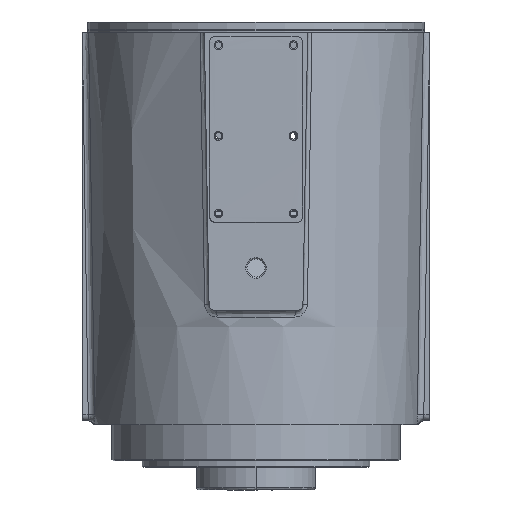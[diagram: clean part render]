
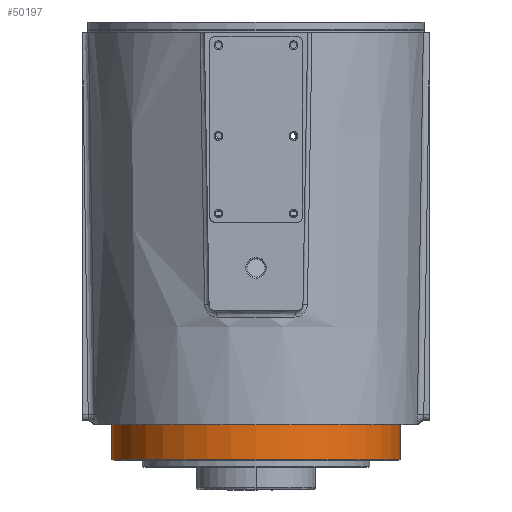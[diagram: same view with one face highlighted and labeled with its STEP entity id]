
A CAD part, front view. The second image highlights one B-rep face of the part: STEP entity #50197.
In plain terms, the highlighted cylindrical face has radius 111.25 mm (diameter 222.5 mm), a partial arc.
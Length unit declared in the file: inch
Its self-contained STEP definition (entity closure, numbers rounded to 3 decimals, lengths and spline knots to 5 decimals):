
#1699 = EDGE_CURVE ( 'NONE', #58257, #52171, #32516, .T. ) ;
#2009 = AXIS2_PLACEMENT_3D ( 'NONE', #48661, #16203, #32827 ) ;
#3770 = LINE ( 'NONE', #46225, #13887 ) ;
#4473 = VECTOR ( 'NONE', #64363, 39.37008 ) ;
#8277 = AXIS2_PLACEMENT_3D ( 'NONE', #62366, #56709, #29879 ) ;
#13887 = VECTOR ( 'NONE', #35984, 39.37008 ) ;
#14033 = CARTESIAN_POINT ( 'NONE',  ( 0., 0., -8.26772 ) ) ;
#16203 = DIRECTION ( 'NONE',  ( 0., 0., 1. ) ) ;
#17011 = EDGE_CURVE ( 'NONE', #28480, #44251, #33104, .T. ) ;
#21936 = LINE ( 'NONE', #53711, #4473 ) ;
#23501 = EDGE_LOOP ( 'NONE', ( #64349, #23802, #65460, #62231 ) ) ;
#23802 = ORIENTED_EDGE ( 'NONE', *, *, #17011, .T. ) ;
#28480 = VERTEX_POINT ( 'NONE', #52569 ) ;
#29879 = DIRECTION ( 'NONE',  ( -1., 0., 0. ) ) ;
#32516 = CIRCLE ( 'NONE', #2009, 4.37992 ) ;
#32827 = DIRECTION ( 'NONE',  ( -1., 0., 0. ) ) ;
#33104 = CIRCLE ( 'NONE', #8277, 4.37992 ) ;
#34106 = EDGE_CURVE ( 'NONE', #28480, #52171, #3770, .T. ) ;
#35253 = CYLINDRICAL_SURFACE ( 'NONE', #52986, 4.37992 ) ;
#35593 = DIRECTION ( 'NONE',  ( -1., 0., 0. ) ) ;
#35984 = DIRECTION ( 'NONE',  ( 0., 0., -1. ) ) ;
#40544 = DIRECTION ( 'NONE',  ( 0., 0., -1. ) ) ;
#44130 = CARTESIAN_POINT ( 'NONE',  ( 4.37992, 0., -8.0315 ) ) ;
#44251 = VERTEX_POINT ( 'NONE', #52334 ) ;
#44449 = EDGE_CURVE ( 'NONE', #44251, #58257, #21936, .T. ) ;
#46225 = CARTESIAN_POINT ( 'NONE',  ( 4.37992, 0., -8.26772 ) ) ;
#48661 = CARTESIAN_POINT ( 'NONE',  ( 0., 0., -8.0315 ) ) ;
#50197 = ADVANCED_FACE ( 'NONE', ( #68093 ), #35253, .T. ) ;
#52171 = VERTEX_POINT ( 'NONE', #44130 ) ;
#52334 = CARTESIAN_POINT ( 'NONE',  ( -4.37992, 0., -6.08004 ) ) ;
#52569 = CARTESIAN_POINT ( 'NONE',  ( 4.37992, 0., -6.08004 ) ) ;
#52986 = AXIS2_PLACEMENT_3D ( 'NONE', #14033, #40544, #35593 ) ;
#53711 = CARTESIAN_POINT ( 'NONE',  ( -4.37992, 0., -8.26772 ) ) ;
#56709 = DIRECTION ( 'NONE',  ( 0., 0., -1. ) ) ;
#58257 = VERTEX_POINT ( 'NONE', #65097 ) ;
#62231 = ORIENTED_EDGE ( 'NONE', *, *, #1699, .T. ) ;
#62366 = CARTESIAN_POINT ( 'NONE',  ( 0., 0., -6.08004 ) ) ;
#64349 = ORIENTED_EDGE ( 'NONE', *, *, #34106, .F. ) ;
#64363 = DIRECTION ( 'NONE',  ( 0., 0., -1. ) ) ;
#65097 = CARTESIAN_POINT ( 'NONE',  ( -4.37992, 0., -8.0315 ) ) ;
#65460 = ORIENTED_EDGE ( 'NONE', *, *, #44449, .T. ) ;
#68093 = FACE_OUTER_BOUND ( 'NONE', #23501, .T. ) ;
